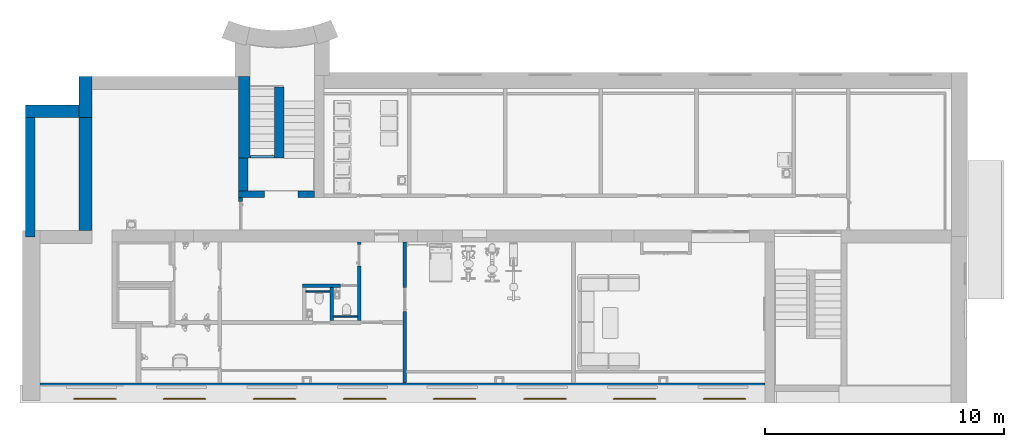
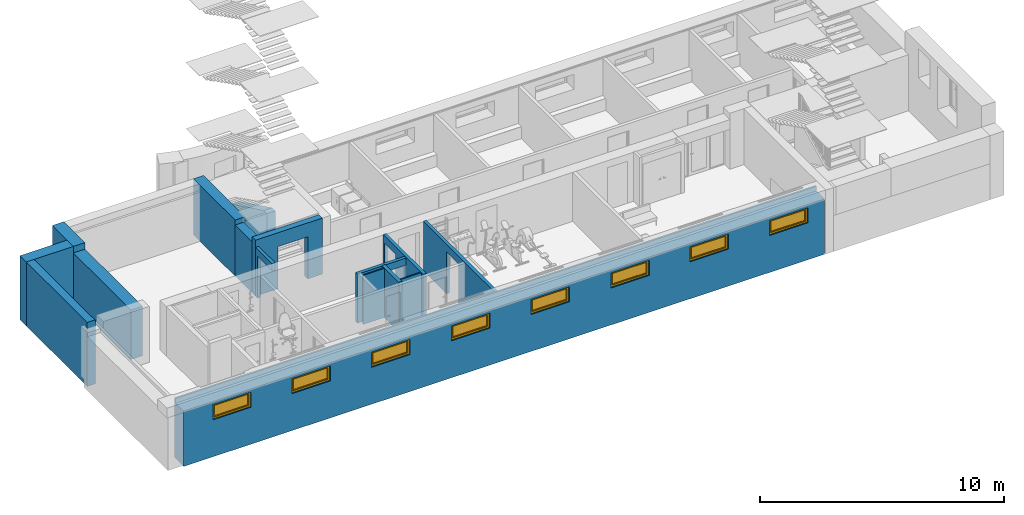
# One storey, part 4 of 23: 17 walls, 8 windows, 17 openings.
"""IFC2X3 building model written with IfcOpenShell, lengths in millimetres."""

from ifc_helpers import new_model, entity, si_unit, converted_unit, derived_unit, direction, frame, frame_2d, origin, place, context, subcontext, project, spatial, polyline, rectangle, outline, extrude, clip, halfspace, bounded_halfspace, source, transform, mapped, material, material_list, layer, layer_set, layer_usage, type_object, type_shapes, element, fill, save


model = new_model("IFC2X3")

# Units and contexts
model_context = context("Model", 3, precision=0.01, world=origin(), true_north=direction((6.12303176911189e-17, 1.0)))
body_context = subcontext(model_context, "Body", "Model", "MODEL_VIEW")
ifc_project = project(units=[si_unit("LENGTHUNIT", "METRE", prefix="MILLI"), si_unit("AREAUNIT", "SQUARE_METRE"), si_unit("VOLUMEUNIT", "CUBIC_METRE"), converted_unit("PLANEANGLEUNIT", "DEGREE", entity("IfcRatioMeasure", 0.0174532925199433), si_unit("PLANEANGLEUNIT", "RADIAN"), dimensions=[0, 0, 0, 0, 0, 0, 0]), si_unit("MASSUNIT", "GRAM", prefix="KILO"), derived_unit("MASSDENSITYUNIT", [(si_unit("MASSUNIT", "GRAM", prefix="KILO"), 1), (si_unit("LENGTHUNIT", "METRE"), -3)]), si_unit("TIMEUNIT", "SECOND"), si_unit("FREQUENCYUNIT", "HERTZ"), si_unit("THERMODYNAMICTEMPERATUREUNIT", "DEGREE_CELSIUS"), derived_unit("THERMALTRANSMITTANCEUNIT", [(si_unit("MASSUNIT", "GRAM", prefix="KILO"), 1), (si_unit("THERMODYNAMICTEMPERATUREUNIT", "KELVIN"), -1), (si_unit("TIMEUNIT", "SECOND"), -3)]), derived_unit("VOLUMETRICFLOWRATEUNIT", [(si_unit("LENGTHUNIT", "METRE"), 3), (si_unit("TIMEUNIT", "SECOND"), -1)]), si_unit("ELECTRICCURRENTUNIT", "AMPERE"), si_unit("ELECTRICVOLTAGEUNIT", "VOLT"), si_unit("POWERUNIT", "WATT"), si_unit("FORCEUNIT", "NEWTON", prefix="KILO"), si_unit("ILLUMINANCEUNIT", "LUX"), si_unit("LUMINOUSFLUXUNIT", "LUMEN"), si_unit("LUMINOUSINTENSITYUNIT", "CANDELA"), derived_unit("USERDEFINED", [(si_unit("MASSUNIT", "GRAM", prefix="KILO"), -1), (si_unit("LENGTHUNIT", "METRE"), -2), (si_unit("TIMEUNIT", "SECOND"), 3), (si_unit("LUMINOUSFLUXUNIT", "LUMEN"), 1)]), derived_unit("LINEARVELOCITYUNIT", [(si_unit("LENGTHUNIT", "METRE"), 1), (si_unit("TIMEUNIT", "SECOND"), -1)]), si_unit("PRESSUREUNIT", "PASCAL"), derived_unit("USERDEFINED", [(si_unit("LENGTHUNIT", "METRE"), -2), (si_unit("MASSUNIT", "GRAM", prefix="KILO"), 1), (si_unit("TIMEUNIT", "SECOND"), -2)]), derived_unit("LINEARFORCEUNIT", [(si_unit("MASSUNIT", "GRAM", prefix="KILO"), 1), (si_unit("LENGTHUNIT", "METRE"), 1), (si_unit("TIMEUNIT", "SECOND"), -2), (si_unit("LENGTHUNIT", "METRE"), -1)]), derived_unit("PLANARFORCEUNIT", [(si_unit("MASSUNIT", "GRAM", prefix="KILO"), 1), (si_unit("LENGTHUNIT", "METRE"), 1), (si_unit("TIMEUNIT", "SECOND"), -2), (si_unit("LENGTHUNIT", "METRE"), -2)])], contexts=[model_context])

# Site, building, storey
site_placement = place(None, origin())
site = spatial("IfcSite", under=ifc_project, at=site_placement, Name="Default", CompositionType="ELEMENT")
building_placement = place(site_placement, origin())
building = spatial("IfcBuilding", under=site, at=building_placement, Name="SMA ARH", CompositionType="ELEMENT")
storey_placement = place(building_placement, frame((0.0, 0.0, -2800.0)))
storey = spatial("IfcBuildingStorey", under=building, at=storey_placement, Name="0 Sokkel", CompositionType="ELEMENT", Elevation=-2800.0)

# Walls
ifc_material_1 = material(Name="_ol.olev sein")
ifc_layer_1 = layer(ifc_material_1, 550.0)
ifc_layer_set_1 = layer_set([ifc_layer_1], Name="Basic Wall:Generic - 550mm")
ifc_layer_usage_1 = layer_usage(ifc_layer_set_1, "AXIS2", "NEGATIVE", 275.0)
wall_type_1 = type_object("IfcWallType", Name="Basic Wall:Generic - 550mm", PredefinedType="STANDARD", material=ifc_layer_set_1)
wall_1_placement = place(storey_placement, frame((2040.0, 11220.0, -400.0), z_axis=(0.0, 0.0, 1.0), x_axis=(0.0, 1.0, 0.0)))
element("IfcWallStandardCase", 1, at=wall_1_placement, inside=storey, type_object=wall_type_1, material=ifc_layer_usage_1, Name="Basic Wall:Generic - 550mm", ObjectType="Basic Wall:Generic - 550mm", context=body_context, shape_type="SweptSolid", body=[
    extrude(rectangle(XDim=1726.2030428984, YDim=550.0, at=frame_2d((863.101521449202, -5.6843418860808e-14), x_axis=(-1.0, 0.0))), origin(), (0.0, 0.0, 1.0), 3200.0),
])
ifc_layer_usage_2 = layer_usage(ifc_layer_set_1, "AXIS2", "NEGATIVE", 275.0)
wall_2_placement = place(storey_placement, frame((2040.0, 11220.0, 0.0), z_axis=(0.0, 0.0, 1.0), x_axis=(0.0, -1.0, 0.0)))
element("IfcWallStandardCase", 2, at=wall_2_placement, inside=storey, type_object=wall_type_1, material=ifc_layer_usage_2, Name="Basic Wall:Generic - 550mm", ObjectType="Basic Wall:Generic - 550mm", context=body_context, shape_type="Clipping", body=[
    clip(extrude(rectangle(XDim=4709.99999999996, YDim=550.0, at=frame_2d((2354.99999999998, 5.6843418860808e-14), x_axis=(-1.0, 0.0))), origin(), (0.0, 0.0, 1.0), 2470.0), bounded_halfspace(frame((0.0, -275.0, 2470.0), z_axis=(0.0, 0.0, -1.0), x_axis=(-1.0, 0.0, 0.0)), True, frame((0.0, -275.0, 2470.0), z_axis=(0.0, 0.0, -1.0), x_axis=(-1.0, 0.0, 0.0)), polyline([(0.0, 0.0), (0.0, 400.0), (0.0, 550.0), (-4710.0, 550.0), (-4710.0, 0.0), (0.0, 0.0)]))),
])
ifc_layer_2 = layer(ifc_material_1, 520.0)
ifc_layer_set_2 = layer_set([ifc_layer_2], Name="Basic Wall:Generic - 520mm")
ifc_layer_usage_3 = layer_usage(ifc_layer_set_2, "AXIS2", "NEGATIVE", 260.0)
wall_type_2 = type_object("IfcWallType", Name="Basic Wall:Generic - 520mm", PredefinedType="STANDARD", material=ifc_layer_set_2)
wall_3_placement = place(storey_placement, frame((-460.0, 11480.0, -400.0)))
element("IfcWallStandardCase", 3, at=wall_3_placement, inside=storey, type_object=wall_type_2, material=ifc_layer_usage_3, Name="Basic Wall:Generic - 520mm", ObjectType="Basic Wall:Generic - 520mm", context=body_context, shape_type="SweptSolid", body=[
    extrude(rectangle(XDim=2225.0, YDim=519.999999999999, at=frame_2d((1112.5, -2.8421709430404e-13), x_axis=(-1.0, 0.0))), origin(), (0.0, 0.0, 1.0), 3200.0),
])

# Wall, opening
ifc_layer_3 = layer(ifc_material_1, 280.0)
ifc_layer_set_3 = layer_set([ifc_layer_3], Name="Basic Wall:Generic - 280mm")
ifc_layer_usage_4 = layer_usage(ifc_layer_set_3, "AXIS2", "POSITIVE", -140.0)
wall_type_3 = type_object("IfcWallType", Name="Basic Wall:Generic - 280mm", PredefinedType="STANDARD", material=ifc_layer_set_3)
wall_4_placement = place(storey_placement, frame((8440.0, 8015.0, 0.0)))
wall_4 = element("IfcWallStandardCase", 4, at=wall_4_placement, inside=storey, type_object=wall_type_3, material=ifc_layer_usage_4, Name="Basic Wall:Generic - 280mm", ObjectType="Basic Wall:Generic - 280mm", context=body_context, shape_type="SweptSolid", body=[
    extrude(rectangle(XDim=3160.0, YDim=279.999999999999, at=frame_2d((1580.0, 1.4210854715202e-14), x_axis=(-1.0, 0.0))), origin(), (0.0, 0.0, 1.0), 2800.0),
])
opening_1_placement = place(wall_4_placement, origin())
element("IfcOpeningElement", 5, at=opening_1_placement, cuts=wall_4, Name="Basic Wall:Generic - 280mm", ObjectType="Opening", context=body_context, shape_type="SweptSolid", body=[
    extrude(rectangle(XDim=2100.0, YDim=1400.0, at=frame_2d((0.0, 1.08002495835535e-12), x_axis=(1.0, 0.0))), frame((1775.0, -140.0, 1050.0), z_axis=(0.0, 1.0, 0.0), x_axis=(0.0, 0.0, -1.0)), (0.0, 0.0, 1.0), 279.999999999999),
])

ifc_layer_4 = layer(ifc_material_1, 400.0)
ifc_layer_set_4 = layer_set([ifc_layer_4], Name="Basic Wall:Generic - 400mm")
ifc_layer_usage_5 = layer_usage(ifc_layer_set_4, "AXIS2", "NEGATIVE", 200.0)
wall_type_4 = type_object("IfcWallType", Name="Basic Wall:Generic - 400mm", PredefinedType="STANDARD", material=ifc_layer_set_4)
wall_5_placement = place(storey_placement, frame((10135.0, 9535.0, 0.0), z_axis=(0.0, 0.0, 1.0), x_axis=(0.0, 1.0, 0.0)))
wall_5 = element("IfcWallStandardCase", 6, at=wall_5_placement, inside=storey, type_object=wall_type_4, material=ifc_layer_usage_5, Name="Basic Wall:Generic - 400mm", ObjectType="Basic Wall:Generic - 400mm", context=body_context, shape_type="Clipping", body=[
    clip(extrude(rectangle(XDim=2955.10416512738, YDim=400.0, at=frame_2d((1477.55208256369, -1.4210854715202e-14), x_axis=(-1.0, 0.0))), origin(), (0.0, 0.0, 1.0), 2600.0), halfspace(frame((252.811679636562, -200.0, 2600.0), z_axis=(0.437919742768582, 0.0, 0.899014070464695), x_axis=(0.0, 1.0, 0.0)), False)),
])
opening_2_placement = place(wall_5_placement, origin())
element("IfcOpeningElement", 7, at=opening_2_placement, cuts=wall_5, Name="Basic Wall:Generic - 400mm", ObjectType="Opening", context=body_context, shape_type="SweptSolid", body=[
    extrude(rectangle(XDim=1199.99999999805, YDim=100.0, at=frame_2d((-5.43565192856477e-13, -2.8421709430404e-13), x_axis=(0.0, 1.0))), frame((50.0, 197.499999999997, 640.0), z_axis=(0.0, 1.0, 0.0), x_axis=(-1.0, 0.0, 0.0)), (0.0, 0.0, 1.0), 1000.0),
])

# Wall
ifc_layer_usage_6 = layer_usage(ifc_layer_set_4, "AXIS2", "POSITIVE", -200.0)
wall_6_placement = place(storey_placement, frame((8640.0, 9535.0, 0.0), z_axis=(0.0, 0.0, 1.0), x_axis=(0.0, -1.0, 0.0)))
element("IfcWallStandardCase", 8, at=wall_6_placement, inside=storey, type_object=wall_type_4, material=ifc_layer_usage_6, Name="Basic Wall:Generic - 400mm", ObjectType="Basic Wall:Generic - 400mm", context=body_context, shape_type="SweptSolid", body=[
    extrude(rectangle(XDim=1380.00000000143, YDim=400.0, at=frame_2d((690.000000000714, -9.9475983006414e-14), x_axis=(-1.0, 0.0))), origin(), (0.0, 0.0, 1.0), 2556.3),
])

# Wall, opening
ifc_material_2 = material(Name="EST. Müüritis. Väikeplokk. Kergkruusplokk")
ifc_layer_5 = layer(ifc_material_2, 150.0)
ifc_layer_set_5 = layer_set([ifc_layer_5], Name="Basic Wall:SS-02_ 150mm šahtide vahesein")
ifc_layer_usage_7 = layer_usage(ifc_layer_set_5, "AXIS2", "NEGATIVE", 75.0)
wall_type_5 = type_object("IfcWallType", Name="Basic Wall:SS-02_ 150mm šahtide vahesein", PredefinedType="STANDARD", material=ifc_layer_set_5)
wall_7_placement = place(storey_placement, frame((8515.0, 7875.0, 0.0), z_axis=(0.0, 0.0, 1.0), x_axis=(0.0, -1.0, 0.0)))
wall_7 = element("IfcWallStandardCase", 9, at=wall_7_placement, inside=storey, type_object=wall_type_5, material=ifc_layer_usage_7, Name="Basic Wall:SS-02_ 150mm šahtide vahesein", ObjectType="Basic Wall:SS-02_ 150mm šahtide vahesein", context=body_context, shape_type="SweptSolid", body=[
    extrude(rectangle(XDim=1354.99999999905, YDim=150.000000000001, at=frame_2d((677.499999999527, -2.8421709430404e-14), x_axis=(-1.0, 0.0))), origin(), (0.0, 0.0, 1.0), 2450.0),
])
opening_3_placement = place(wall_7_placement, frame((155.0, -75.0, 0.0)))
element("IfcOpeningElement", 10, at=opening_3_placement, cuts=wall_7, Name="SMA_D01, 1-poolne:SU-M-01 - 1200x2100 EI-30:1", ObjectType="Opening", context=body_context, shape_type="SweptSolid", body=[
    extrude(rectangle(XDim=2099.99999999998, YDim=1200.0, at=frame_2d((1049.99999999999, 600.0), x_axis=(1.0, 0.0))), frame((0.0, 0.0, 0.0), z_axis=(0.0, 1.0, 0.0), x_axis=(0.0, 0.0, 1.0)), (0.0, 0.0, 1.0), 150.0),
])

# Wall
ifc_layer_6 = layer(ifc_material_1, 380.0)
ifc_layer_set_6 = layer_set([ifc_layer_6], Name="Basic Wall:Generic - 380mm")
ifc_layer_usage_8 = layer_usage(ifc_layer_set_6, "AXIS2", "NEGATIVE", 190.0)
wall_type_6 = type_object("IfcWallType", Name="Basic Wall:Generic - 380mm", PredefinedType="STANDARD", material=ifc_layer_set_6)
wall_8_placement = place(storey_placement, frame((-270.0, 6235.0, -400.0), z_axis=(0.0, 0.0, 1.0), x_axis=(0.0, 1.0, 0.0)))
element("IfcWallStandardCase", 11, at=wall_8_placement, inside=storey, type_object=wall_type_6, material=ifc_layer_usage_8, Name="Basic Wall:Generic - 380mm", ObjectType="Basic Wall:Generic - 380mm", context=body_context, shape_type="Clipping", body=[
    clip(clip(extrude(rectangle(XDim=4984.99999999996, YDim=380.0, at=frame_2d((2492.49999999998, 0.0), x_axis=(-1.0, 0.0))), origin(), (0.0, 0.0, 1.0), 3200.0), bounded_halfspace(frame((4985.0, -170.0, 2870.0), z_axis=(0.0, 0.0, -1.0), x_axis=(1.0, 0.0, 0.0)), True, frame((4985.0, -170.0, 2870.0), z_axis=(0.0, 0.0, -1.0), x_axis=(1.0, 0.0, 0.0)), polyline([(0.0, 0.0), (0.0, 20.0), (-4710.0, 20.0), (-4710.0, 0.0), (0.0, 0.0)]))), bounded_halfspace(frame((275.0, -170.0, 2870.0), z_axis=(0.0, 1.0, 0.0), x_axis=(0.0, 0.0, 1.0)), True, frame((275.0, -170.0, 2870.0), z_axis=(0.0, 1.0, 0.0), x_axis=(0.0, 0.0, 1.0)), polyline([(0.0, 0.0), (25.7885670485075, 0.0), (330.0, 0.0), (330.0, 210.0), (330.0, 4270.0), (330.0, 4710.0), (0.0, 4710.0), (0.0, 0.0)]))),
])

# Wall, opening
ifc_layer_7 = layer(ifc_material_1, 470.0)
ifc_layer_set_7 = layer_set([ifc_layer_7], Name="Basic Wall:Generic - 470mm")
ifc_layer_usage_9 = layer_usage(ifc_layer_set_7, "AXIS2", "POSITIVE", -235.0)
wall_type_7 = type_object("IfcWallType", Name="Basic Wall:Generic - 470mm", PredefinedType="STANDARD", material=ifc_layer_set_7)
wall_9_placement = place(storey_placement, frame((8675.0, 12946.2030428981, 0.0), z_axis=(0.0, 0.0, 1.0), x_axis=(0.0, -1.0, 0.0)))
wall_9 = element("IfcWallStandardCase", 12, at=wall_9_placement, inside=storey, type_object=wall_type_7, material=ifc_layer_usage_9, Name="Basic Wall:Generic - 470mm", ObjectType="Basic Wall:Generic - 470mm", context=body_context, shape_type="SweptSolid", body=[
    extrude(rectangle(XDim=3411.20304289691, YDim=469.999999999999, at=frame_2d((1705.60152144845, -2.98427949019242e-13), x_axis=(-1.0, 0.0))), origin(), (0.0, 0.0, 1.0), 2800.0),
])
opening_4_placement = place(wall_9_placement, origin())
element("IfcOpeningElement", 13, at=opening_4_placement, cuts=wall_9, Name="Basic Wall:Generic - 470mm", ObjectType="Opening", context=body_context, shape_type="SweptSolid", body=[
    extrude(rectangle(XDim=2099.99999999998, YDim=1250.0, at=frame_2d((-1.13686837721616e-12, 0.0), x_axis=(0.0, 1.0))), frame((-623.796957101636, -1489.0, 2450.0), z_axis=(0.0, 1.0, 0.0), x_axis=(-1.0, 0.0, 0.0)), (0.0, 0.0, 1.0), 3048.0),
])

# Wall, openings, windows
ifc_layer_8 = layer(ifc_material_1, 750.0)
ifc_layer_set_8 = layer_set([ifc_layer_8], Name="Basic Wall:Generic - 750mm")
ifc_layer_usage_10 = layer_usage(ifc_layer_set_8, "AXIS2", "POSITIVE", -375.0)
wall_type_8 = type_object("IfcWallType", Name="Basic Wall:Generic - 750mm", PredefinedType="STANDARD", material=ifc_layer_set_8)
wall_10_placement = place(storey_placement, frame((145.0, -240.0, -457.589184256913)))
wall_10 = element("IfcWallStandardCase", 14, at=wall_10_placement, inside=storey, type_object=wall_type_8, material=ifc_layer_usage_10, Name="Basic Wall:Generic - 750mm", ObjectType="Basic Wall:Generic - 750mm", context=body_context, shape_type="Clipping", body=[
    clip(clip(extrude(rectangle(XDim=30305.0, YDim=750.0, at=frame_2d((15152.5, 5.6843418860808e-14), x_axis=(-1.0, 0.0))), origin(), (0.0, 0.0, 1.0), 2994.66795250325), bounded_halfspace(frame((0.0, 290.0, 2763.38258139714), z_axis=(0.0, 1.0, 0.0), x_axis=(-1.0, 0.0, 0.0)), True, frame((0.0, 290.0, 2763.38258139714), z_axis=(0.0, 1.0, 0.0), x_axis=(-1.0, 0.0, 0.0)), polyline([(0.0, 0.0), (0.0, 231.28537110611), (-30305.0, 231.28537110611), (-30305.0, 0.0), (0.0, 0.0)]))), bounded_halfspace(frame((30305.0, 290.0, 2763.38258139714), z_axis=(0.0, 0.0, -1.0), x_axis=(0.0, 1.0, 0.0)), True, frame((30305.0, 290.0, 2763.38258139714), z_axis=(0.0, 0.0, -1.0), x_axis=(0.0, 1.0, 0.0)), polyline([(0.0, 0.0), (-665.0, 0.0), (-665.0, -30305.0), (0.0, -30305.0), (0.0, 0.0)]))),
])
opening_5_placement = place(wall_10_placement, frame((3195.0, 375.0, 1847.58918425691)))
opening_5 = element("IfcOpeningElement", 15, at=opening_5_placement, cuts=wall_10, Name="SMA_W1, 1-jaotus1:A-00_1860x750 mm:1", ObjectType="Opening", context=body_context, shape_type="SweptSolid", body=[
    extrude(rectangle(XDim=750.0, YDim=1820.0, at=frame_2d((375.0, 910.0), x_axis=(1.0, 0.0))), frame((0.0, 0.0, 0.0), z_axis=(0.0, -1.0, 0.0), x_axis=(0.0, 0.0, 1.0)), (0.0, 0.0, 1.0), 750.0),
])
opening_6_placement = place(wall_10_placement, frame((6940.0, 375.0, 1847.58918425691)))
opening_6 = element("IfcOpeningElement", 16, at=opening_6_placement, cuts=wall_10, Name="SMA_W1, 1-jaotus1:A-00_1860x750 mm:1", ObjectType="Opening", context=body_context, shape_type="SweptSolid", body=[
    extrude(rectangle(XDim=750.0, YDim=1820.0, at=frame_2d((375.0, 910.000000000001), x_axis=(1.0, 0.0))), frame((0.0, 0.0, 0.0), z_axis=(0.0, -1.0, 0.0), x_axis=(0.0, 0.0, 1.0)), (0.0, 0.0, 1.0), 750.0),
])
opening_7_placement = place(wall_10_placement, frame((10705.0, 375.0, 1847.58918425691)))
opening_7 = element("IfcOpeningElement", 17, at=opening_7_placement, cuts=wall_10, Name="SMA_W1, 1-jaotus1:A-00_1860x750 mm:1", ObjectType="Opening", context=body_context, shape_type="SweptSolid", body=[
    extrude(rectangle(XDim=750.0, YDim=1820.0, at=frame_2d((375.0, 910.000000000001), x_axis=(1.0, 0.0))), frame((0.0, 0.0, 0.0), z_axis=(0.0, -1.0, 0.0), x_axis=(0.0, 0.0, 1.0)), (0.0, 0.0, 1.0), 750.0),
])
opening_8_placement = place(wall_10_placement, frame((14475.0, 375.0, 1847.58918425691)))
opening_8 = element("IfcOpeningElement", 18, at=opening_8_placement, cuts=wall_10, Name="SMA_W1, 1-jaotus1:A-00_1860x750 mm:1", ObjectType="Opening", context=body_context, shape_type="SweptSolid", body=[
    extrude(rectangle(XDim=750.0, YDim=1820.0, at=frame_2d((375.0, 910.0), x_axis=(1.0, 0.0))), frame((0.0, 0.0, 0.0), z_axis=(0.0, -1.0, 0.0), x_axis=(0.0, 0.0, 1.0)), (0.0, 0.0, 1.0), 750.0),
])
opening_9_placement = place(wall_10_placement, frame((18235.0, 375.0, 1847.58918425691)))
opening_9 = element("IfcOpeningElement", 19, at=opening_9_placement, cuts=wall_10, Name="SMA_W1, 1-jaotus1:A-00_1860x750 mm:1", ObjectType="Opening", context=body_context, shape_type="SweptSolid", body=[
    extrude(rectangle(XDim=750.0, YDim=1820.0, at=frame_2d((375.0, 910.0), x_axis=(1.0, 0.0))), frame((0.0, 0.0, 0.0), z_axis=(0.0, -1.0, 0.0), x_axis=(0.0, 0.0, 1.0)), (0.0, 0.0, 1.0), 750.0),
])
opening_10_placement = place(wall_10_placement, frame((22015.0, 375.0, 1847.58918425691)))
opening_10 = element("IfcOpeningElement", 20, at=opening_10_placement, cuts=wall_10, Name="SMA_W1, 1-jaotus1:A-00_1860x750 mm:1", ObjectType="Opening", context=body_context, shape_type="SweptSolid", body=[
    extrude(rectangle(XDim=750.0, YDim=1820.0, at=frame_2d((375.0, 910.000000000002), x_axis=(1.0, 0.0))), frame((0.0, 0.0, 0.0), z_axis=(0.0, -1.0, 0.0), x_axis=(0.0, 0.0, 1.0)), (0.0, 0.0, 1.0), 750.0),
])
opening_11_placement = place(wall_10_placement, frame((25755.0, 375.0, 1847.58918425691)))
opening_11 = element("IfcOpeningElement", 21, at=opening_11_placement, cuts=wall_10, Name="SMA_W1, 1-jaotus1:A-00_1860x750 mm:1", ObjectType="Opening", context=body_context, shape_type="SweptSolid", body=[
    extrude(rectangle(XDim=750.0, YDim=1820.0, at=frame_2d((375.0, 910.000000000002), x_axis=(1.0, 0.0))), frame((0.0, 0.0, 0.0), z_axis=(0.0, -1.0, 0.0), x_axis=(0.0, 0.0, 1.0)), (0.0, 0.0, 1.0), 750.0),
])
opening_12_placement = place(wall_10_placement, frame((29510.0, 375.0, 1847.58918425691)))
opening_12 = element("IfcOpeningElement", 22, at=opening_12_placement, cuts=wall_10, Name="SMA_W1, 1-jaotus1:A-00_1860x750 mm:1", ObjectType="Opening", context=body_context, shape_type="SweptSolid", body=[
    extrude(rectangle(XDim=750.0, YDim=1820.0, at=frame_2d((375.0, 910.000000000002), x_axis=(1.0, 0.0))), frame((0.0, 0.0, 0.0), z_axis=(0.0, -1.0, 0.0), x_axis=(0.0, 0.0, 1.0)), (0.0, 0.0, 1.0), 750.0),
])
ifc_material_3 = material(Name="EST. Klaas. 3x. Default")
ifc_material_4 = material(Name="Default")
ifc_material_list_1 = material_list([ifc_material_3, ifc_material_4])
ifc_material_5 = material(Name="<Unnamed>")
ifc_material_list_2 = material_list([ifc_material_5, ifc_material_5, ifc_material_4, ifc_material_3, ifc_material_4])
window_style = type_object("IfcWindowStyle", Name="SMA_W1, 1-jaotus1:A-00_1860x750 mm", ConstructionType="NOTDEFINED", OperationType="NOTDEFINED", ParameterTakesPrecedence=False, Sizeable=False, material=ifc_material_list_2)
shared_shape = source(origin(), body_context, "Body", "SweptSolid", [
    extrude(rectangle(XDim=20.0, YDim=1590.0, at=frame_2d((0.0, -5.6843418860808e-14), x_axis=(1.0, 0.0))), frame((910.0, 650.0, 115.0), z_axis=(0.0, 0.0, 1.0), x_axis=(0.0, 1.0, 0.0)), (0.0, 0.0, 1.0), 520.0),
    extrude(outline(polyline([(-330.0, -865.0), (330.0, -865.0), (330.0, 865.0), (-330.0, 865.0), (-330.0, -865.0)]), holes=[polyline([(260.0, 795.0), (260.0, -795.0), (-260.0, -795.0), (-260.0, 795.0), (260.0, 795.0)])]), frame((910.0, 625.0, 375.0), z_axis=(0.0, 1.0, 0.0), x_axis=(0.0, 0.0, 1.0)), (0.0, 0.0, 1.0), 50.0),
    extrude(outline(polyline([(-365.0, -900.0), (365.0, -900.0), (365.0, 900.0), (-365.0, 900.0), (-365.0, -900.0)]), holes=[polyline([(-295.0, -830.0), (-295.0, 830.0), (295.0, 830.0), (295.0, -830.0), (-295.0, -830.0)])]), frame((910.0, 650.0, 375.0), z_axis=(0.0, 1.0, 0.0), x_axis=(0.0, 0.0, 1.0)), (0.0, 0.0, 1.0), 50.0),
])
type_shapes(window_style, [shared_shape])
window_1_placement = place(opening_5_placement, frame((0.0, 0.0, 0.0), z_axis=(0.0, 0.0, 1.0), x_axis=(-1.0, 0.0, 0.0)))
window_1 = element("IfcWindow", 23, at=window_1_placement, inside=storey, type_object=window_style, material=ifc_material_list_1, Name="SMA_W1, 1-jaotus1:A-00_1860x750 mm", ObjectType="SMA_W1, 1-jaotus1:A-00_1860x750 mm", OverallHeight=750.0, OverallWidth=1820.0, context=body_context, shape_type="MappedRepresentation", body=[
    mapped(shared_shape, transform((0.0, 0.0, 0.0), scale=1.0)),
])
fill(opening_5, window_1)
ifc_material_list_3 = material_list([ifc_material_3, ifc_material_4])
window_2_placement = place(opening_6_placement, frame((0.0, 0.0, 0.0), z_axis=(0.0, 0.0, 1.0), x_axis=(-1.0, 0.0, 0.0)))
window_2 = element("IfcWindow", 24, at=window_2_placement, inside=storey, type_object=window_style, material=ifc_material_list_3, Name="SMA_W1, 1-jaotus1:A-00_1860x750 mm", ObjectType="SMA_W1, 1-jaotus1:A-00_1860x750 mm", OverallHeight=750.0, OverallWidth=1820.0, context=body_context, shape_type="MappedRepresentation", body=[
    mapped(shared_shape, transform((0.0, 0.0, 0.0), scale=1.0)),
])
fill(opening_6, window_2)
ifc_material_list_4 = material_list([ifc_material_3, ifc_material_4])
window_3_placement = place(opening_7_placement, frame((0.0, 0.0, 0.0), z_axis=(0.0, 0.0, 1.0), x_axis=(-1.0, 0.0, 0.0)))
window_3 = element("IfcWindow", 25, at=window_3_placement, inside=storey, type_object=window_style, material=ifc_material_list_4, Name="SMA_W1, 1-jaotus1:A-00_1860x750 mm", ObjectType="SMA_W1, 1-jaotus1:A-00_1860x750 mm", OverallHeight=750.0, OverallWidth=1820.0, context=body_context, shape_type="MappedRepresentation", body=[
    mapped(shared_shape, transform((0.0, 0.0, 0.0), scale=1.0)),
])
fill(opening_7, window_3)
ifc_material_list_5 = material_list([ifc_material_3, ifc_material_4])
window_4_placement = place(opening_8_placement, frame((0.0, 0.0, 0.0), z_axis=(0.0, 0.0, 1.0), x_axis=(-1.0, 0.0, 0.0)))
window_4 = element("IfcWindow", 26, at=window_4_placement, inside=storey, type_object=window_style, material=ifc_material_list_5, Name="SMA_W1, 1-jaotus1:A-00_1860x750 mm", ObjectType="SMA_W1, 1-jaotus1:A-00_1860x750 mm", OverallHeight=750.0, OverallWidth=1820.0, context=body_context, shape_type="MappedRepresentation", body=[
    mapped(shared_shape, transform((0.0, 0.0, 0.0), scale=1.0)),
])
fill(opening_8, window_4)
ifc_material_list_6 = material_list([ifc_material_3, ifc_material_4])
window_5_placement = place(opening_9_placement, frame((0.0, 0.0, 0.0), z_axis=(0.0, 0.0, 1.0), x_axis=(-1.0, 0.0, 0.0)))
window_5 = element("IfcWindow", 27, at=window_5_placement, inside=storey, type_object=window_style, material=ifc_material_list_6, Name="SMA_W1, 1-jaotus1:A-00_1860x750 mm", ObjectType="SMA_W1, 1-jaotus1:A-00_1860x750 mm", OverallHeight=750.0, OverallWidth=1820.0, context=body_context, shape_type="MappedRepresentation", body=[
    mapped(shared_shape, transform((0.0, 0.0, 0.0), scale=1.0)),
])
fill(opening_9, window_5)
ifc_material_list_7 = material_list([ifc_material_3, ifc_material_4])
window_6_placement = place(opening_10_placement, frame((0.0, 0.0, 0.0), z_axis=(0.0, 0.0, 1.0), x_axis=(-1.0, 0.0, 0.0)))
window_6 = element("IfcWindow", 28, at=window_6_placement, inside=storey, type_object=window_style, material=ifc_material_list_7, Name="SMA_W1, 1-jaotus1:A-00_1860x750 mm", ObjectType="SMA_W1, 1-jaotus1:A-00_1860x750 mm", OverallHeight=750.0, OverallWidth=1820.0, context=body_context, shape_type="MappedRepresentation", body=[
    mapped(shared_shape, transform((0.0, 0.0, 0.0), scale=1.0)),
])
fill(opening_10, window_6)
ifc_material_list_8 = material_list([ifc_material_3, ifc_material_4])
window_7_placement = place(opening_11_placement, frame((0.0, 0.0, 0.0), z_axis=(0.0, 0.0, 1.0), x_axis=(-1.0, 0.0, 0.0)))
window_7 = element("IfcWindow", 29, at=window_7_placement, inside=storey, type_object=window_style, material=ifc_material_list_8, Name="SMA_W1, 1-jaotus1:A-00_1860x750 mm", ObjectType="SMA_W1, 1-jaotus1:A-00_1860x750 mm", OverallHeight=750.0, OverallWidth=1820.0, context=body_context, shape_type="MappedRepresentation", body=[
    mapped(shared_shape, transform((0.0, 0.0, 0.0), scale=1.0)),
])
fill(opening_11, window_7)
ifc_material_list_9 = material_list([ifc_material_3, ifc_material_4])
window_8_placement = place(opening_12_placement, frame((0.0, 0.0, 0.0), z_axis=(0.0, 0.0, 1.0), x_axis=(-1.0, 0.0, 0.0)))
window_8 = element("IfcWindow", 30, at=window_8_placement, inside=storey, type_object=window_style, material=ifc_material_list_9, Name="SMA_W1, 1-jaotus1:A-00_1860x750 mm", ObjectType="SMA_W1, 1-jaotus1:A-00_1860x750 mm", OverallHeight=750.0, OverallWidth=1820.0, context=body_context, shape_type="MappedRepresentation", body=[
    mapped(shared_shape, transform((0.0, 0.0, 0.0), scale=1.0)),
])
fill(opening_12, window_8)

# Wall, openings
ifc_layer_9 = layer(ifc_material_2, 150.0)
ifc_layer_set_9 = layer_set([ifc_layer_9], Name="Basic Wall:SS-01_ 150mm soklikorruse seinad")
ifc_layer_usage_11 = layer_usage(ifc_layer_set_9, "AXIS2", "NEGATIVE", 75.0)
wall_type_9 = type_object("IfcWallType", Name="Basic Wall:SS-01_ 150mm soklikorruse seinad", PredefinedType="STANDARD", material=ifc_layer_set_9)
wall_11_placement = place(storey_placement, frame((13475.0236086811, 6010.0, 0.0), z_axis=(0.0, 0.0, 1.0), x_axis=(0.0, -1.0, 0.0)))
wall_11 = element("IfcWallStandardCase", 31, at=wall_11_placement, inside=storey, type_object=wall_type_9, material=ifc_layer_usage_11, Name="Basic Wall:SS-01_ 150mm soklikorruse seinad", ObjectType="Basic Wall:SS-01_ 150mm soklikorruse seinad", context=body_context, shape_type="SweptSolid", body=[
    extrude(rectangle(XDim=3280.00000000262, YDim=150.000000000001, at=frame_2d((1640.00000000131, -1.20792265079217e-13), x_axis=(-1.0, 0.0))), origin(), (0.0, 0.0, 1.0), 2480.0),
])
opening_13_placement = place(wall_11_placement, origin())
element("IfcOpeningElement", 32, at=opening_13_placement, cuts=wall_11, Name="Basic Wall:SS-01_ 150mm soklikorruse seinad", ObjectType="Opening", context=body_context, shape_type="SweptSolid", body=[
    extrude(rectangle(XDim=2099.99999999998, YDim=150.0, at=frame_2d((-2.70006239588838e-13, 0.0), x_axis=(0.0, 1.0))), frame((1815.0, -775.0, 1050.0), z_axis=(0.0, 1.0, 0.0), x_axis=(-1.0, 0.0, 0.0)), (0.0, 0.0, 1.0), 699.999999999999),
])
opening_14_placement = place(wall_11_placement, frame((1000.0, 75.0, 0.0)))
element("IfcOpeningElement", 33, at=opening_14_placement, cuts=wall_11, Name="SMA_D01, 1-poolne:SU-P-01 - 900x2100:1", ObjectType="Opening", context=body_context, shape_type="SweptSolid", body=[
    extrude(rectangle(XDim=2099.99999999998, YDim=900.0, at=frame_2d((1049.99999999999, 450.0), x_axis=(1.0, 0.0))), frame((0.0, 0.0, 0.0), z_axis=(0.0, -1.0, 0.0), x_axis=(0.0, 0.0, 1.0)), (0.0, 0.0, 1.0), 150.0),
])

# Wall
ifc_layer_usage_12 = layer_usage(ifc_layer_set_9, "AXIS2", "NEGATIVE", 75.0)
wall_12_placement = place(storey_placement, frame((12325.0236086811, 4120.0, 0.0), z_axis=(0.0, 0.0, 1.0), x_axis=(0.0, -1.0, 0.0)))
element("IfcWallStandardCase", 34, at=wall_12_placement, inside=storey, type_object=wall_type_9, material=ifc_layer_usage_12, Name="Basic Wall:SS-01_ 150mm soklikorruse seinad", ObjectType="Basic Wall:SS-01_ 150mm soklikorruse seinad", context=body_context, shape_type="SweptSolid", body=[
    extrude(rectangle(XDim=1390.00000000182, YDim=150.000000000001, at=frame_2d((695.00000000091, 0.0), x_axis=(-1.0, 0.0))), origin(), (0.0, 0.0, 1.0), 2480.0),
])

# Wall, opening
ifc_layer_usage_13 = layer_usage(ifc_layer_set_9, "AXIS2", "NEGATIVE", 75.0)
wall_13_placement = place(storey_placement, frame((11100.023608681, 4195.0, 0.0)))
wall_13 = element("IfcWallStandardCase", 35, at=wall_13_placement, inside=storey, type_object=wall_type_9, material=ifc_layer_usage_13, Name="Basic Wall:SS-01_ 150mm soklikorruse seinad", ObjectType="Basic Wall:SS-01_ 150mm soklikorruse seinad", context=body_context, shape_type="SweptSolid", body=[
    extrude(rectangle(XDim=2300.00000000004, YDim=149.999999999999, at=frame_2d((1150.00000000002, 1.20792265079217e-13), x_axis=(-1.0, 0.0))), origin(), (0.0, 0.0, 1.0), 2450.0),
])
opening_15_placement = place(wall_13_placement, frame((1600.0, -75.0, 0.0)))
element("IfcOpeningElement", 36, at=opening_15_placement, cuts=wall_13, Name="SMA_D01, 1-poolne:SU-P-02 - 700x2100:1", ObjectType="Opening", context=body_context, shape_type="SweptSolid", body=[
    extrude(rectangle(XDim=2099.99999999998, YDim=700.0, at=frame_2d((1049.99999999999, 350.0), x_axis=(1.0, 0.0))), frame((0.0, 0.0, 0.0), z_axis=(0.0, 1.0, 0.0), x_axis=(0.0, 0.0, 1.0)), (0.0, 0.0, 1.0), 150.0),
])

ifc_layer_usage_14 = layer_usage(ifc_layer_set_9, "AXIS2", "NEGATIVE", 75.0)
wall_14_placement = place(storey_placement, frame((15375.0, 135.0, 0.0), z_axis=(0.0, 0.0, 1.0), x_axis=(0.0, 1.0, 0.0)))
wall_14 = element("IfcWallStandardCase", 37, at=wall_14_placement, inside=storey, type_object=wall_type_9, material=ifc_layer_usage_14, Name="Basic Wall:SS-01_ 150mm soklikorruse seinad", ObjectType="Basic Wall:SS-01_ 150mm soklikorruse seinad", context=body_context, shape_type="SweptSolid", body=[
    extrude(rectangle(XDim=5875.00000000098, YDim=150.000000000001, at=frame_2d((2937.50000000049, -7.105427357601e-15), x_axis=(-1.0, 0.0))), origin(), (0.0, 0.0, 1.0), 2480.0),
])
opening_16_placement = place(wall_14_placement, frame((3975.0, 75.0, 0.0)))
element("IfcOpeningElement", 38, at=opening_16_placement, cuts=wall_14, Name="SMA_D01, 1-poolne:SU-P-03 - 1000x2100:1", ObjectType="Opening", context=body_context, shape_type="SweptSolid", body=[
    extrude(rectangle(XDim=2099.99999999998, YDim=1000.0, at=frame_2d((1049.99999999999, 500.0), x_axis=(1.0, 0.0))), frame((0.0, 0.0, 0.0), z_axis=(0.0, -1.0, 0.0), x_axis=(0.0, 0.0, 1.0)), (0.0, 0.0, 1.0), 150.0),
])

ifc_material_6 = material(Name="EST. Müüritis. Väikeplokk. Poorbetoonplokk")
ifc_layer_10 = layer(ifc_material_6, 100.0)
ifc_layer_set_10 = layer_set([ifc_layer_10], Name="Basic Wall:SS-00_Bauroc 100mm")
ifc_layer_usage_15 = layer_usage(ifc_layer_set_10, "AXIS2", "NEGATIVE", 50.0)
wall_type_10 = type_object("IfcWallType", Name="Basic Wall:SS-00_Bauroc 100mm", PredefinedType="STANDARD", material=ifc_layer_set_10)
wall_15_placement = place(storey_placement, frame((9935.0, 9585.0, 0.0), z_axis=(0.0, 0.0, 1.0), x_axis=(-1.0, 0.0, 0.0)))
wall_15 = element("IfcWallStandardCase", 39, at=wall_15_placement, inside=storey, type_object=wall_type_10, material=ifc_layer_usage_15, Name="Basic Wall:SS-00_Bauroc 100mm", ObjectType="Basic Wall:SS-00_Bauroc 100mm", context=body_context, shape_type="SweptSolid", body=[
    extrude(rectangle(XDim=1024.99999999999, YDim=99.9999999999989, at=frame_2d((512.499999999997, 1.52766688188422e-13), x_axis=(-1.0, 0.0))), origin(), (0.0, 0.0, 1.0), 2600.0),
])
opening_17_placement = place(wall_15_placement, frame((997.499999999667, 50.0, 40.0)))
element("IfcOpeningElement", 40, at=opening_17_placement, cuts=wall_15, Name="SMA_D01, 1-poolne:SU-M-06 - 1000x1200 EI-30:1", ObjectType="Opening", context=body_context, shape_type="SweptSolid", body=[
    extrude(rectangle(XDim=1199.99999999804, YDim=1000.0, at=frame_2d((599.999999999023, 500.0), x_axis=(1.0, 0.0))), frame((0.0, 0.0, 0.0), z_axis=(0.0, -1.0, 0.0), x_axis=(0.0, 0.0, 1.0)), (0.0, 0.0, 1.0), 100.0),
])

# Walls
ifc_material_7 = material(Name="EST. Soojustus. Mineraalvill. Default")
ifc_layer_11 = layer(ifc_material_7, 50.0)
ifc_material_8 = material(Name="EST. Ehitusplaat. Kipsplaat")
ifc_layer_12 = layer(ifc_material_8, 12.5)
ifc_layer_set_11 = layer_set([ifc_layer_11, ifc_layer_12], Name="Basic Wall:SS-05_Kips, 50mm metallkarkass")
ifc_layer_usage_16 = layer_usage(ifc_layer_set_11, "AXIS2", "NEGATIVE", 31.25)
wall_type_11 = type_object("IfcWallType", Name="Basic Wall:SS-05_Kips, 50mm metallkarkass", PredefinedType="STANDARD", material=ifc_layer_set_11)
wall_16_placement = place(storey_placement, frame((11250.023608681, 3952.24999999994, 0.0)))
element("IfcWallStandardCase", 41, at=wall_16_placement, inside=storey, type_object=wall_type_11, material=ifc_layer_usage_16, Name="Basic Wall:SS-05_Kips, 50mm metallkarkass", ObjectType="Basic Wall:SS-05_Kips, 50mm metallkarkass", context=body_context, shape_type="SweptSolid", body=[
    extrude(rectangle(XDim=1000.00000000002, YDim=62.4999999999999, at=frame_2d((500.000000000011, 0.0), x_axis=(-1.0, 0.0))), origin(), (0.0, 0.0, 1.0), 2450.0),
])
ifc_layer_usage_17 = layer_usage(ifc_layer_set_11, "AXIS2", "POSITIVE", -31.25)
wall_17_placement = place(storey_placement, frame((12400.0236086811, 2897.74999999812, 0.0)))
element("IfcWallStandardCase", 42, at=wall_17_placement, inside=storey, type_object=wall_type_11, material=ifc_layer_usage_17, Name="Basic Wall:SS-05_Kips, 50mm metallkarkass", ObjectType="Basic Wall:SS-05_Kips, 50mm metallkarkass", context=body_context, shape_type="SweptSolid", body=[
    extrude(rectangle(XDim=1000.00000000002, YDim=62.4999999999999, at=frame_2d((500.00000000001, 0.0), x_axis=(-1.0, 0.0))), origin(), (0.0, 0.0, 1.0), 2480.0),
])

save(model, "model.ifc")
